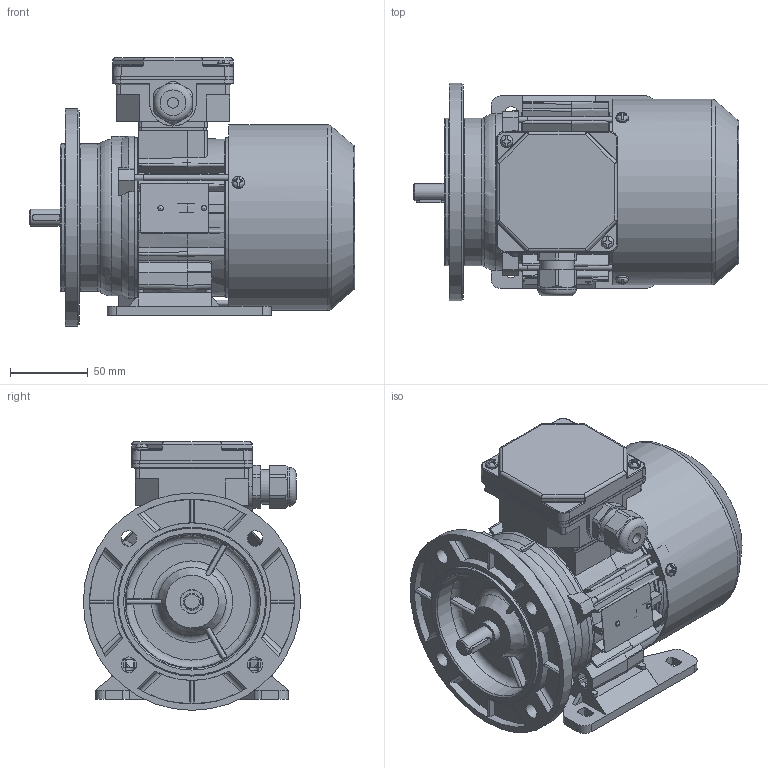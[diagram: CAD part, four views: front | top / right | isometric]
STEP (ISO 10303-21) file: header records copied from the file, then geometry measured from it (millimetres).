
FILE_DESCRIPTION( ( 'Unknown' ), '1' );
FILE_NAME( 'G:/Poczta Tk-1/STP/w.m.63/Sh63/SLh63-B.stp', 'Unknown', ( 'K. Szlosek' ), ( 'BESEL S.A.' ), 'PSStep 17.0.49', 'Unknown', ' ' );
FILE_SCHEMA( ( 'AUTOMOTIVE_DESIGN { 1 0 10303 214 1 1 1 1 }' ) );
Length unit declared in the file: millimetre
Products named in the file (30): Assem1; K1-1110 Tarcza kołnierzowa nowa SKg63-..; K3-9973 Kadłub ze stojanem wykończonym Sh63-B; K3-5320 Tarcza łożyskowa P Sg63; Łożysko 6202; K3-9974 Wał Sh63-B; K2-1769 Przewietrznik Sg63; K3-5321 osłona przewietrznika Sg63; Wpust A4x4x18; Śruba ściągająca E_M4x80; K4-2320 Uszczelka nr 1 Sh71,80; K4-2820 Uszczelka nr 2 Sh71,80; K2-0859 Podstawa skrzynki 6-cio zaciskowej; K2-0860 Pokrywka skrzynki zaciskowej; Wkręt samogwintujący M4x8; Wkręt samogwintujący M4x16; Dławnica M20x1,5; Tabliczka znamionowa 32x44; Nitokołek A 2x6; K1-1107 Łapa Sg63-.. w. robocza
Assembly tree (46 placements, depth 2):
  Assem1
    K1-1110 Tarcza kołnierzowa nowa SKg63-..
    K3-9973 Kadłub ze stojanem wykończonym Sh63-B
    K3-5320 Tarcza łożyskowa P Sg63
    Łożysko 6202  x2
    Łożysko 6202  x2
    Łożysko 6202  x2
    Łożysko 6202  x2
    Łożysko 6202  x2
    Łożysko 6202  x2
    Łożysko 6202  x2
    Łożysko 6202  x2
    Łożysko 6202  x2
    Łożysko 6202  x2
    Łożysko 6202  x2
    K3-9974 Wał Sh63-B
    K2-1769 Przewietrznik Sg63
    K3-5321 osłona przewietrznika Sg63
    Wpust A4x4x18
    Śruba ściągająca E_M4x80  x3
    K4-2320 Uszczelka nr 1 Sh71,80
    K4-2820 Uszczelka nr 2 Sh71,80
    K2-0859 Podstawa skrzynki 6-cio zaciskowej
    K2-0860 Pokrywka skrzynki zaciskowej
    Wkręt samogwintujący M4x8  x3
    Wkręt samogwintujący M4x16  x2
    Dławnica M20x1,5
    Tabliczka znamionowa 32x44
    Nitokołek A 2x6  x2
    K1-1107 Łapa Sg63-.. w. robocza
Bounding box: 209.5 x 140 x 173 mm (x, y, z)
Volume: 585878.1 mm3; surface area: 378268.2 mm2
Topology: 46 solids, 64 shells, 1984 faces, 5456 edges, 3541 vertices
Faces by surface type: plane 1016, cylinder 592, cone 128, torus 112, bspline 97, sphere 39
Full cylindrical faces by diameter (mm): 2 x2, 2.4 x2, 3.3 x3, 3.7 x10, 4 x8, 4.5 x4, 4.8 x4, 5 x4, 5.8 x4, 7 x4, 8 x6, 10 x4, 11 x1, 12.9 x1, 13.1 x1, 13.5 x1, 15 x4, 15.4 x2, 18.376 x1, 18.38 x1, 19 x2, 19.5 x1, 20 x2, 20.1 x1, 21.52 x4, 22.3 x1, 25 x1, 28 x2, 28.48 x4, 31 x2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
Entity records: 84867 total; most frequent: CARTESIAN_POINT 25701, ORIENTED_EDGE 9456, DIRECTION 9150, EDGE_CURVE 4728, AXIS2_PLACEMENT_3D 3365, VERTEX_POINT 3214, LINE 2420, VECTOR 2420
